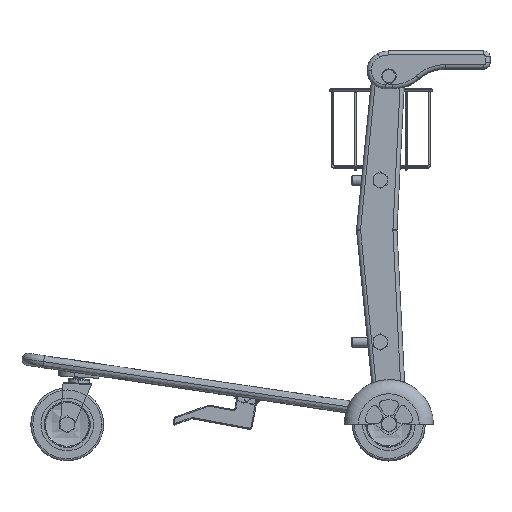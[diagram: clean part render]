
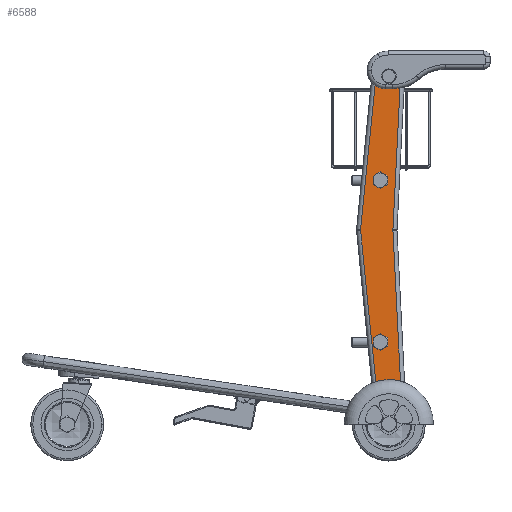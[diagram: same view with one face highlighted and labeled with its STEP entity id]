
A CAD part, top view. The second image highlights one B-rep face of the part: STEP entity #6588.
In plain terms, the highlighted planar face has unit normal (0, 0, 1) as drawn and (0, 0, -1) by its records, which use the part's own axes.
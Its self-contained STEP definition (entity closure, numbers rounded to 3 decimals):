
#2313 = EDGE_CURVE ( 'NONE', #24602, #24605, #42392, .T. ) ;
#2321 = EDGE_CURVE ( 'NONE', #24613, #24614, #42409, .T. ) ;
#2329 = EDGE_CURVE ( 'NONE', #24621, #24622, #42421, .T. ) ;
#2353 = EDGE_CURVE ( 'NONE', #5268, #5272, #15878, .T. ) ;
#2386 = EDGE_CURVE ( 'NONE', #24605, #24602, #42498, .T. ) ;
#2387 = EDGE_CURVE ( 'NONE', #24614, #24613, #42499, .T. ) ;
#2388 = EDGE_CURVE ( 'NONE', #24622, #24621, #42501, .T. ) ;
#2389 = EDGE_CURVE ( 'NONE', #5287, #5298, #42503, .T. ) ;
#2390 = EDGE_CURVE ( 'NONE', #5298, #5301, #16002, .T. ) ;
#2391 = EDGE_CURVE ( 'NONE', #5300, #5301, #42507, .T. ) ;
#5262 = VERTEX_POINT ( 'NONE', #16395 ) ;
#5268 = VERTEX_POINT ( 'NONE', #16398 ) ;
#5272 = VERTEX_POINT ( 'NONE', #16401 ) ;
#5287 = VERTEX_POINT ( 'NONE', #16415 ) ;
#5298 = VERTEX_POINT ( 'NONE', #16426 ) ;
#5300 = VERTEX_POINT ( 'NONE', #16428 ) ;
#5301 = VERTEX_POINT ( 'NONE', #16429 ) ;
#6588 = ADVANCED_FACE ( 'NONE', ( #14434, #14428, #14437, #14438 ), #14439, .T. ) ;
#6741 = EDGE_CURVE ( 'NONE', #5300, #5272, #14679, .T. ) ;
#6745 = EDGE_CURVE ( 'NONE', #5268, #5262, #14675, .T. ) ;
#6749 = EDGE_CURVE ( 'NONE', #5262, #5287, #14684, .T. ) ;
#11888 = ORIENTED_EDGE ( 'NONE', *, *, #2313, .F. ) ;
#11890 = ORIENTED_EDGE ( 'NONE', *, *, #2386, .F. ) ;
#11892 = ORIENTED_EDGE ( 'NONE', *, *, #2321, .F. ) ;
#11894 = ORIENTED_EDGE ( 'NONE', *, *, #2387, .F. ) ;
#11896 = ORIENTED_EDGE ( 'NONE', *, *, #2329, .F. ) ;
#11898 = ORIENTED_EDGE ( 'NONE', *, *, #2388, .F. ) ;
#11900 = ORIENTED_EDGE ( 'NONE', *, *, #2389, .T. ) ;
#11902 = ORIENTED_EDGE ( 'NONE', *, *, #2390, .T. ) ;
#11904 = ORIENTED_EDGE ( 'NONE', *, *, #2391, .F. ) ;
#11906 = ORIENTED_EDGE ( 'NONE', *, *, #6741, .T. ) ;
#11908 = ORIENTED_EDGE ( 'NONE', *, *, #2353, .F. ) ;
#11910 = ORIENTED_EDGE ( 'NONE', *, *, #6745, .T. ) ;
#11912 = ORIENTED_EDGE ( 'NONE', *, *, #6749, .T. ) ;
#14425 = DIRECTION ( 'NONE',  ( 0., 0., -1. ) ) ;
#14428 = FACE_BOUND ( 'NONE', #17200, .T. ) ;
#14434 = FACE_BOUND ( 'NONE', #17250, .T. ) ;
#14435 = CARTESIAN_POINT ( 'NONE',  ( 0., 0., 0. ) ) ;
#14437 = FACE_BOUND ( 'NONE', #17348, .T. ) ;
#14438 = FACE_OUTER_BOUND ( 'NONE', #17277, .T. ) ;
#14439 = PLANE ( 'NONE',  #43000 ) ;
#14440 = DIRECTION ( 'NONE',  ( -1., 0., 0. ) ) ;
#14675 = LINE ( 'NONE', #14682, #43018 ) ;
#14679 = LINE ( 'NONE', #14680, #43040 ) ;
#14680 = CARTESIAN_POINT ( 'NONE',  ( 9.988, 800.499, 0. ) ) ;
#14681 = DIRECTION ( 'NONE',  ( -0.05, 0.999, 0. ) ) ;
#14682 = CARTESIAN_POINT ( 'NONE',  ( 110.05, 399.005, 0. ) ) ;
#14683 = DIRECTION ( 'NONE',  ( 0.1, -0.995, 0. ) ) ;
#14684 = LINE ( 'NONE', #14685, #43039 ) ;
#14685 = CARTESIAN_POINT ( 'NONE',  ( 72.21, 22.595, 0. ) ) ;
#14686 = DIRECTION ( 'NONE',  ( -0.1, -0.995, 0. ) ) ;
#15766 = CARTESIAN_POINT ( 'NONE',  ( 39.981, 780., 0. ) ) ;
#15767 = DIRECTION ( 'NONE',  ( 0., 0., -1. ) ) ;
#15768 = DIRECTION ( 'NONE',  ( -1., 0., 0. ) ) ;
#15790 = CARTESIAN_POINT ( 'NONE',  ( 61.145, 522.909, 0. ) ) ;
#15791 = DIRECTION ( 'NONE',  ( 0., 0., -1. ) ) ;
#15792 = DIRECTION ( 'NONE',  ( -1., 0., 0. ) ) ;
#15814 = CARTESIAN_POINT ( 'NONE',  ( 61.145, 122.909, 0. ) ) ;
#15815 = DIRECTION ( 'NONE',  ( 0., 0., -1. ) ) ;
#15816 = DIRECTION ( 'NONE',  ( -1., 0., 0. ) ) ;
#15878 = LINE ( 'NONE', #15886, #42466 ) ;
#15886 = CARTESIAN_POINT ( 'NONE',  ( 0., 800., 0. ) ) ;
#15888 = DIRECTION ( 'NONE',  ( -1., 0., 0. ) ) ;
#15990 = CARTESIAN_POINT ( 'NONE',  ( 39.981, 780., 0. ) ) ;
#15991 = DIRECTION ( 'NONE',  ( 0., 0., -1. ) ) ;
#15992 = DIRECTION ( 'NONE',  ( -1., 0., 0. ) ) ;
#15994 = CARTESIAN_POINT ( 'NONE',  ( 61.145, 522.909, 0. ) ) ;
#15995 = DIRECTION ( 'NONE',  ( 0., 0., -1. ) ) ;
#15996 = DIRECTION ( 'NONE',  ( -1., 0., 0. ) ) ;
#15997 = CARTESIAN_POINT ( 'NONE',  ( 29.988, 399.501, 0. ) ) ;
#15998 = CARTESIAN_POINT ( 'NONE',  ( 61.145, 122.909, 0. ) ) ;
#15999 = DIRECTION ( 'NONE',  ( 0., 0., -1. ) ) ;
#16000 = DIRECTION ( 'NONE',  ( -1., 0., 0. ) ) ;
#16002 = LINE ( 'NONE', #15997, #42482 ) ;
#16003 = CARTESIAN_POINT ( 'NONE',  ( 40., -80., 0. ) ) ;
#16004 = DIRECTION ( 'NONE',  ( 0., 0., 1. ) ) ;
#16005 = DIRECTION ( 'NONE',  ( 1., 0., 0. ) ) ;
#16006 = DIRECTION ( 'NONE',  ( 0.05, 0.999, 0. ) ) ;
#16009 = CARTESIAN_POINT ( 'NONE',  ( 9.988, 400., 0. ) ) ;
#16010 = DIRECTION ( 'NONE',  ( 0., 0., -1. ) ) ;
#16011 = DIRECTION ( 'NONE',  ( -1., 0., 0. ) ) ;
#16395 = CARTESIAN_POINT ( 'NONE',  ( 109.95, 400., 0. ) ) ;
#16398 = CARTESIAN_POINT ( 'NONE',  ( 69.95, 800., 0. ) ) ;
#16401 = CARTESIAN_POINT ( 'NONE',  ( 10.012, 800., 0. ) ) ;
#16415 = CARTESIAN_POINT ( 'NONE',  ( 72.46, 25.102, 0. ) ) ;
#16426 = CARTESIAN_POINT ( 'NONE',  ( 11.322, 26.196, 0. ) ) ;
#16428 = CARTESIAN_POINT ( 'NONE',  ( 29.963, 400.999, 0. ) ) ;
#16429 = CARTESIAN_POINT ( 'NONE',  ( 29.963, 399.001, 0. ) ) ;
#17200 = EDGE_LOOP ( 'NONE', ( #11892, #11894 ) ) ;
#17250 = EDGE_LOOP ( 'NONE', ( #11888, #11890 ) ) ;
#17277 = EDGE_LOOP ( 'NONE', ( #11900, #11902, #11904, #11906, #11908, #11910, #11912 ) ) ;
#17348 = EDGE_LOOP ( 'NONE', ( #11896, #11898 ) ) ;
#24602 = VERTEX_POINT ( 'NONE', #43808 ) ;
#24605 = VERTEX_POINT ( 'NONE', #43811 ) ;
#24613 = VERTEX_POINT ( 'NONE', #43818 ) ;
#24614 = VERTEX_POINT ( 'NONE', #43819 ) ;
#24621 = VERTEX_POINT ( 'NONE', #43825 ) ;
#24622 = VERTEX_POINT ( 'NONE', #43826 ) ;
#42392 = CIRCLE ( 'NONE', #42404, 5. ) ;
#42404 = AXIS2_PLACEMENT_3D ( 'NONE', #15766, #15767, #15768 ) ;
#42409 = CIRCLE ( 'NONE', #42416, 3. ) ;
#42416 = AXIS2_PLACEMENT_3D ( 'NONE', #15790, #15791, #15792 ) ;
#42421 = CIRCLE ( 'NONE', #42428, 3. ) ;
#42428 = AXIS2_PLACEMENT_3D ( 'NONE', #15814, #15815, #15816 ) ;
#42466 = VECTOR ( 'NONE', #15888, 1000. ) ;
#42482 = VECTOR ( 'NONE', #16006, 1000. ) ;
#42498 = CIRCLE ( 'NONE', #42500, 5. ) ;
#42499 = CIRCLE ( 'NONE', #42502, 3. ) ;
#42500 = AXIS2_PLACEMENT_3D ( 'NONE', #15990, #15991, #15992 ) ;
#42501 = CIRCLE ( 'NONE', #42504, 3. ) ;
#42502 = AXIS2_PLACEMENT_3D ( 'NONE', #15994, #15995, #15996 ) ;
#42503 = CIRCLE ( 'NONE', #42506, 110. ) ;
#42504 = AXIS2_PLACEMENT_3D ( 'NONE', #15998, #15999, #16000 ) ;
#42506 = AXIS2_PLACEMENT_3D ( 'NONE', #16003, #16004, #16005 ) ;
#42507 = CIRCLE ( 'NONE', #42508, 20. ) ;
#42508 = AXIS2_PLACEMENT_3D ( 'NONE', #16009, #16010, #16011 ) ;
#43000 = AXIS2_PLACEMENT_3D ( 'NONE', #14435, #14425, #14440 ) ;
#43018 = VECTOR ( 'NONE', #14683, 1000. ) ;
#43039 = VECTOR ( 'NONE', #14686, 1000. ) ;
#43040 = VECTOR ( 'NONE', #14681, 1000. ) ;
#43808 = CARTESIAN_POINT ( 'NONE',  ( 44.981, 780., 0. ) ) ;
#43811 = CARTESIAN_POINT ( 'NONE',  ( 34.981, 780., 0. ) ) ;
#43818 = CARTESIAN_POINT ( 'NONE',  ( 64.145, 522.909, 0. ) ) ;
#43819 = CARTESIAN_POINT ( 'NONE',  ( 58.145, 522.909, 0. ) ) ;
#43825 = CARTESIAN_POINT ( 'NONE',  ( 64.145, 122.909, 0. ) ) ;
#43826 = CARTESIAN_POINT ( 'NONE',  ( 58.145, 122.909, 0. ) ) ;
